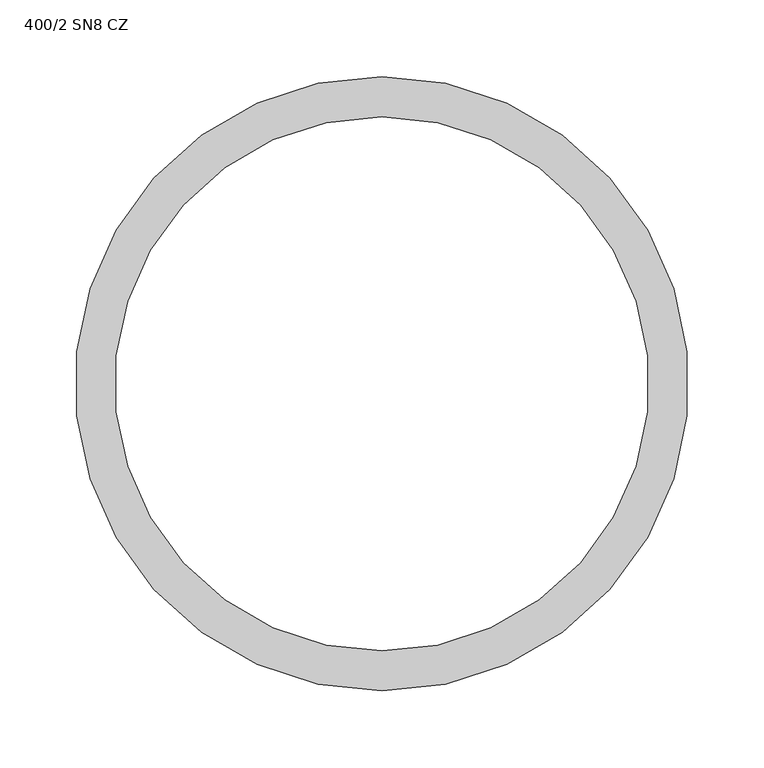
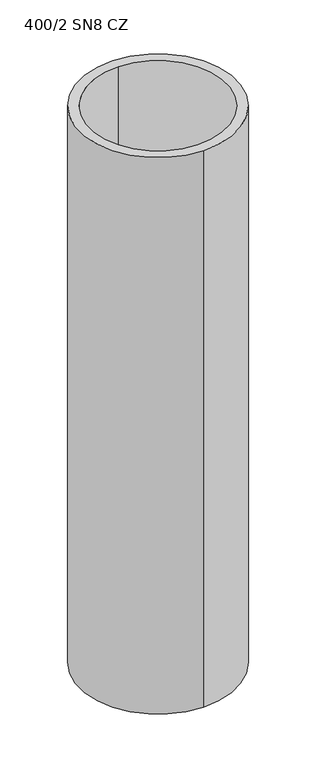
"""IFC4 building model written with IfcOpenShell, lengths in millimetres: valve geometry, Pipelife - Studnia PRO - Rura trzonowa 400 : 400/2 SN8 CZ."""

from ifc_helpers import new_model, si_unit, point, origin, origin_with_axes, origin_2d, place, context, project, spatial, circle_curve, trimmed, segment, composite_curve, outline, extrude, source, transform, mapped, element, save


def valve_400_2_sn8_cz_ebfe10f1(model_context):
    return source(origin(), model_context, "Body", "SweptSolid", [
        extrude(outline(composite_curve([segment(trimmed(circle_curve(origin_2d(), 200.0), [point((0.0, 200.0))], [point((0.0, -200.0))], False, "CARTESIAN"), True, "CONTINUOUS"), segment(trimmed(circle_curve(origin_2d(), 200.0), [point((0.0, -200.0))], [point((0.0, 200.0))], False, "CARTESIAN"), True, "CONTINUOUS")], self_intersect=False), holes=[composite_curve([segment(trimmed(circle_curve(origin_2d(), 174.0), [point((0.0, 174.0))], [point((0.0, -174.0))], True, "CARTESIAN"), True, "CONTINUOUS"), segment(trimmed(circle_curve(origin_2d(), 174.0), [point((0.0, -174.0))], [point((0.0, 174.0))], True, "CARTESIAN"), True, "CONTINUOUS")], self_intersect=False)]), origin_with_axes(), (0.0, 0.0, 1.0), 1500.0),
    ])


if __name__ == "__main__":
    model = new_model("IFC4")
    model_context = context("Model", 3, world=origin())
    ifc_project = project(units=[si_unit("LENGTHUNIT", "METRE", prefix="MILLI")], contexts=[model_context])
    site = spatial("IfcSite", under=ifc_project)
    building = spatial("IfcBuilding", under=site)
    placement = place(None, origin())
    valve_400_2_sn8_cz_shape = valve_400_2_sn8_cz_ebfe10f1(model_context)
    element("IfcValve", 1, ObjectType="Pipelife - Studnia PRO - Rura trzonowa 400 : 400/2 SN8 CZ", at=placement, inside=building, context=model_context, shape_type="MappedRepresentation", body=[
        mapped(valve_400_2_sn8_cz_shape, transform((0.0, 0.0, 0.0), x_axis=(1.0, 0.0, 0.0), y_axis=(0.0, 1.0, 0.0), z_axis=(0.0, 0.0, 1.0))),
    ])
    save(model, "model.ifc")
